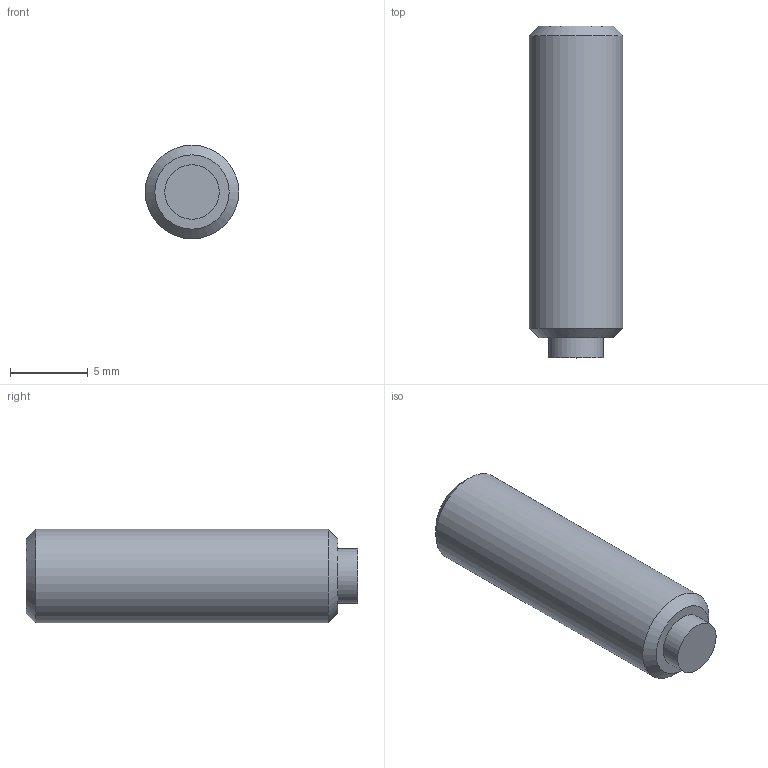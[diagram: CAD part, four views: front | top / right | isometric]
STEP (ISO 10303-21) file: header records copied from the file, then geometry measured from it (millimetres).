
FILE_DESCRIPTION( ( 'STEP AP203' ), '1' );
FILE_NAME( 'C:/Temp/Ganter_Step_05_03_2020/data/3_2/gn913_3/Grub screw GN 913.3-M6-20-KU.stp', '2020-03-13T05:35:36', ( 'License CC BY-ND 4.0' ), ( 'CADENAS' ), ' ', 'PARTsolutions', ' ' );
FILE_SCHEMA( ( 'CONFIG_CONTROL_DESIGN' ) );
Length unit declared in the file: millimetre
Products named in the file (1): _Grub screw GN 913.3-M6-20-KU
Bounding box: 6 x 21.3 x 6 mm (x, y, z)
Volume: 544.1 mm3; surface area: 469.7 mm2
Topology: 1 solids, 1 shells, 14 faces, 28 edges, 18 vertices
Faces by surface type: plane 10, cylinder 2, cone 2
Full cylindrical faces by diameter (mm): 3.5 x1, 6 x1
Entity records: 386 total; most frequent: DIRECTION 60, CARTESIAN_POINT 57, ORIENTED_EDGE 48, EDGE_CURVE 24, AXIS2_PLACEMENT_3D 21, EDGE_LOOP 20, VERTEX_POINT 18, LINE 18
